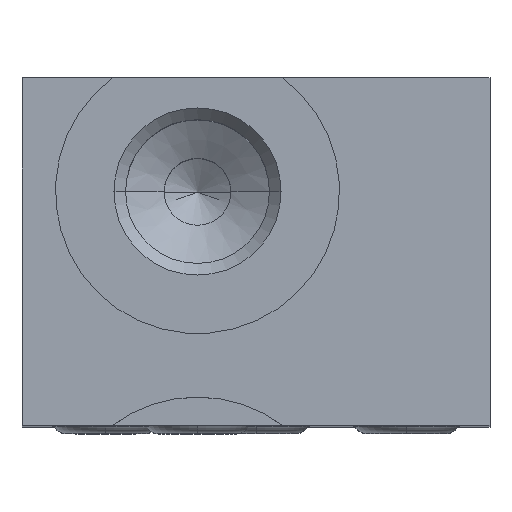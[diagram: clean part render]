
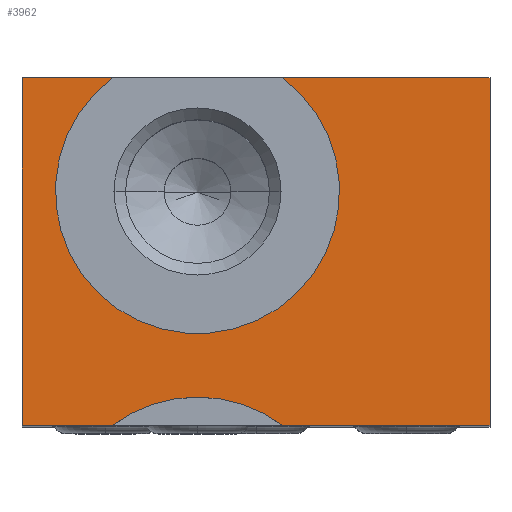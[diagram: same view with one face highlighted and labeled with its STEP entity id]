
A CAD part, top view. The second image highlights one B-rep face of the part: STEP entity #3962.
In plain terms, the highlighted planar face has unit normal (0, 0, 1).
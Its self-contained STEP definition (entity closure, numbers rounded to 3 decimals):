
#592=CARTESIAN_POINT('',(-3.5,-17.2,34.));
#593=DIRECTION('',(0.,0.,1.));
#594=DIRECTION('',(0.6,0.8,0.));
#595=AXIS2_PLACEMENT_3D('',#592,#593,#594);
#597=DIRECTION('',(1.,0.,0.));
#598=VECTOR('',#597,5.4);
#599=CARTESIAN_POINT('',(-14.,-10.4,34.));
#600=LINE('',#599,#598);
#601=DIRECTION('',(0.,-1.,0.));
#602=VECTOR('',#601,20.8);
#603=CARTESIAN_POINT('',(-14.,10.4,34.));
#604=LINE('',#603,#602);
#605=DIRECTION('',(-1.,0.,0.));
#606=VECTOR('',#605,5.4);
#607=CARTESIAN_POINT('',(-8.6,10.4,34.));
#608=LINE('',#607,#606);
#609=DIRECTION('',(-1.,0.,0.));
#610=VECTOR('',#609,12.4);
#611=CARTESIAN_POINT('',(14.,10.4,34.));
#612=LINE('',#611,#610);
#613=DIRECTION('',(0.,1.,0.));
#614=VECTOR('',#613,20.8);
#615=CARTESIAN_POINT('',(14.,-10.4,34.));
#616=LINE('',#615,#614);
#617=DIRECTION('',(1.,0.,0.));
#618=VECTOR('',#617,12.4);
#619=CARTESIAN_POINT('',(1.6,-10.4,34.));
#620=LINE('',#619,#618);
#626=CARTESIAN_POINT('',(-3.5,3.6,34.));
#627=DIRECTION('',(0.,0.,-1.));
#628=DIRECTION('',(0.6,0.8,0.));
#629=AXIS2_PLACEMENT_3D('',#626,#627,#628);
#2869=CARTESIAN_POINT('',(-14.,10.4,34.));
#2870=CARTESIAN_POINT('',(-14.,-10.4,34.));
#2871=VERTEX_POINT('',#2869);
#2872=VERTEX_POINT('',#2870);
#2873=CARTESIAN_POINT('',(14.,-10.4,34.));
#2874=CARTESIAN_POINT('',(14.,10.4,34.));
#2875=VERTEX_POINT('',#2873);
#2876=VERTEX_POINT('',#2874);
#3212=CARTESIAN_POINT('',(1.6,10.4,34.));
#3213=VERTEX_POINT('',#3212);
#3214=CARTESIAN_POINT('',(-8.6,10.4,34.));
#3215=VERTEX_POINT('',#3214);
#3280=CARTESIAN_POINT('',(1.6,-10.4,34.));
#3281=CARTESIAN_POINT('',(-8.6,-10.4,34.));
#3282=VERTEX_POINT('',#3280);
#3283=VERTEX_POINT('',#3281);
#3945=CARTESIAN_POINT('',(0.,0.,34.));
#3946=DIRECTION('',(0.,0.,1.));
#3947=DIRECTION('',(1.,0.,0.));
#3948=AXIS2_PLACEMENT_3D('',#3945,#3946,#3947);
#3949=PLANE('',#3948);
#3951=ORIENTED_EDGE('',*,*,#3950,.T.);
#3952=ORIENTED_EDGE('',*,*,#3500,.F.);
#3953=ORIENTED_EDGE('',*,*,#3597,.F.);
#3954=ORIENTED_EDGE('',*,*,#3635,.F.);
#3956=ORIENTED_EDGE('',*,*,#3955,.F.);
#3957=ORIENTED_EDGE('',*,*,#3627,.F.);
#3958=ORIENTED_EDGE('',*,*,#3874,.F.);
#3959=ORIENTED_EDGE('',*,*,#3508,.F.);
#3960=EDGE_LOOP('',(#3951,#3952,#3953,#3954,#3956,#3957,#3958,#3959));
#3961=FACE_OUTER_BOUND('',#3960,.F.);
#3962=ADVANCED_FACE('',(#3961),#3949,.T.);
#596=CIRCLE('',#595,8.5);
#630=CIRCLE('',#629,8.5);
#3500=EDGE_CURVE('',#2872,#3283,#600,.T.);
#3508=EDGE_CURVE('',#3282,#2875,#620,.T.);
#3597=EDGE_CURVE('',#2871,#2872,#604,.T.);
#3627=EDGE_CURVE('',#2876,#3213,#612,.T.);
#3635=EDGE_CURVE('',#3215,#2871,#608,.T.);
#3874=EDGE_CURVE('',#2875,#2876,#616,.T.);
#3950=EDGE_CURVE('',#3282,#3283,#596,.T.);
#3955=EDGE_CURVE('',#3213,#3215,#630,.T.);
